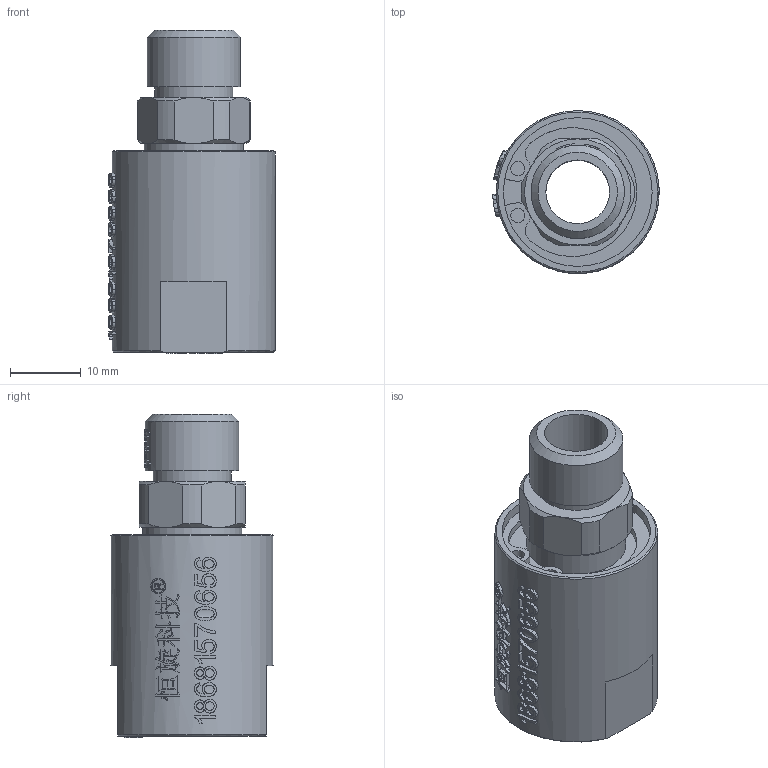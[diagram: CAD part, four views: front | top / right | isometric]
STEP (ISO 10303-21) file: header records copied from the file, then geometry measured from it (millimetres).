
FILE_DESCRIPTION(/* description */ (''),/* implementation_level */ '2;1');
FILE_NAME(/* name */ 'HYK0102(RH)-3D模型.stp',/* time_stamp */ '2025-07-09T08:53:21+08:00',/* author */ (''),/* organization */ (''),/* preprocessor_version */ 'ST-DEVELOPER v16.7',/* originating_system */ 'SIEMENS PLM Software NX 12.0',/* authorisation */ '');
FILE_SCHEMA (('AUTOMOTIVE_DESIGN { 1 0 10303 214 3 1 1 1 }'));
Length unit declared in the file: millimetre
Products named in the file (1): Admi1300D6723vk8
Bounding box: 23.5 x 22.96 x 45.7 mm (x, y, z)
Volume: 10696.1 mm3; surface area: 5500.1 mm2
Topology: 1 solids, 1 shells, 864 faces, 2360 edges, 1569 vertices
Faces by surface type: extrusion 428, plane 338, cylinder 44, bspline 38, cone 16
Full cylindrical faces by diameter (mm): 2 x2, 9 x1, 9.5 x1, 11 x1, 11.5 x1, 13.2 x1, 14 x1, 21 x1, 22 x1, 23 x1
Entity records: 34706 total; most frequent: CARTESIAN_POINT 16507, ORIENTED_EDGE 4684, EDGE_CURVE 2342, B_SPLINE_CURVE_WITH_KNOTS 2198, DIRECTION 1866, VERTEX_POINT 1564, EDGE_LOOP 950, ADVANCED_FACE 864
